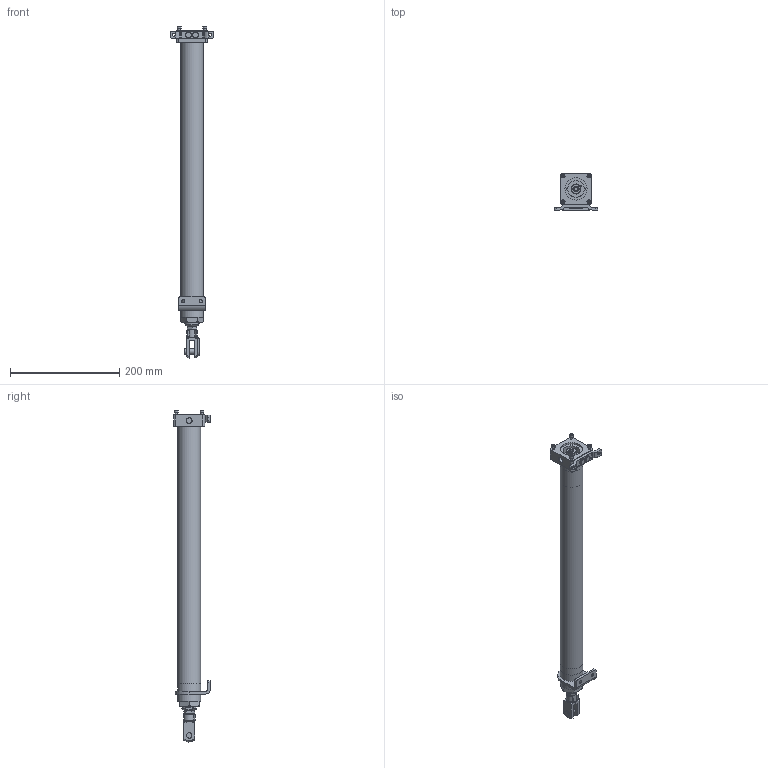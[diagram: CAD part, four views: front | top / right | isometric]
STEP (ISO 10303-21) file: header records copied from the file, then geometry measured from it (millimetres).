
FILE_DESCRIPTION (( 'STEP AP203' ), '1' );
FILE_NAME ('ERD15_BZ10_SM406.400_ERD-479457-1.step', '2025-01-21T17:07:48', ( '' ), ( '' ), 'SwSTEP 2.0', 'SolidWorks 2024', '' );
FILE_SCHEMA (( 'CONFIG_CONTROL_DESIGN' ));
Length unit declared in the file: inch
Products named in the file (6): tempJoin0_21929167_ERD15_BZ10_SM406.400_ERD-479457-1; tempJoin0_21929003_ERD15_BZ10_SM406.400_ERD-479457-1; ERD15_BZ10_SM406.400_ERD-479457-1; 21929201_ERD15_BZ10_SM406.400_ERD-479457-1; 21929132_ERD15_BZ10_SM406.400_ERD-479457-1; Base_ERD15_BZ10_SM406.400_ERD-479457-1
Assembly tree (5 placements, depth 2):
  ERD15_BZ10_SM406.400_ERD-479457-1
    tempJoin0_21929167_ERD15_BZ10_SM406.400_ERD-479457-1
    21929132_ERD15_BZ10_SM406.400_ERD-479457-1
    21929201_ERD15_BZ10_SM406.400_ERD-479457-1
    tempJoin0_21929003_ERD15_BZ10_SM406.400_ERD-479457-1
    Base_ERD15_BZ10_SM406.400_ERD-479457-1
Bounding box: 79.01 x 66.7 x 606.46 mm (x, y, z)
Volume: 494907.5 mm3; surface area: 216534.3 mm2
Topology: 7 solids, 14 shells, 392 faces, 923 edges, 592 vertices
Faces by surface type: plane 216, cylinder 101, cone 67, bspline 6, torus 2
Full cylindrical faces by diameter (mm): 2.499 x1, 3 x1, 3.3 x4, 3.581 x1, 4 x4, 5 x2, 5.499 x1, 5.613 x4, 6 x2, 6.369 x1, 6.375 x1, 7 x4, 7.137 x2, 8.026 x1, 8.75 x1, 8.78 x1, 9.525 x2, 9.884 x2, 9.92 x1, 10 x4, 11.252 x2, 18 x1, 26.391 x1, 26.4 x1, 26.416 x1, 26.492 x1, 27.94 x3, 30.074 x1, 31.992 x1, 32.5 x1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
Entity records: 12658 total; most frequent: CARTESIAN_POINT 3612, DIRECTION 1744, ORIENTED_EDGE 1576, EDGE_CURVE 788, AXIS2_PLACEMENT_3D 680, EDGE_LOOP 552, VERTEX_POINT 548, FACE_OUTER_BOUND 455
